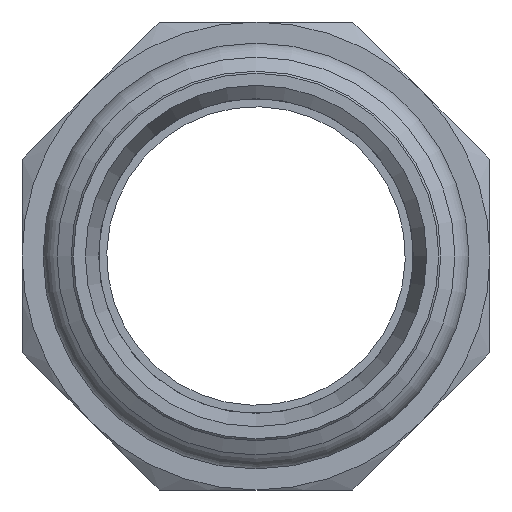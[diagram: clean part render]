
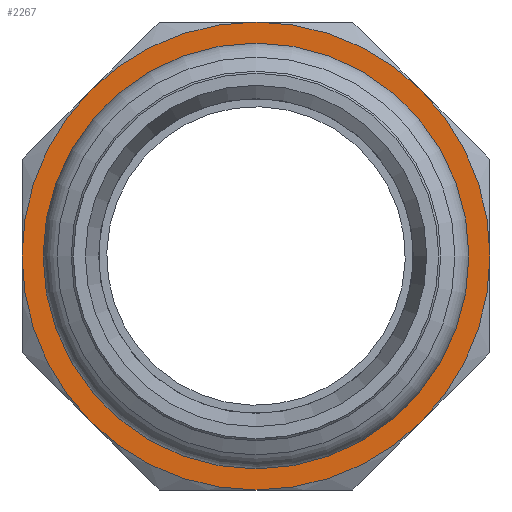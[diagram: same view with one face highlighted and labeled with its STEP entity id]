
A CAD part, left-side view. The second image highlights one B-rep face of the part: STEP entity #2267.
In plain terms, the highlighted planar face has unit normal (-1, 0, 0) as drawn and (0, 0, -1) by its records, which use the part's own axes.
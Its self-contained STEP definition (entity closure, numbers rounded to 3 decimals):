
#1595=CARTESIAN_POINT('',(20.506,20.506,-23.));
#1596=VERTEX_POINT('',#1595);
#1610=CARTESIAN_POINT('',(29.,0.0,-23.));
#1611=VERTEX_POINT('',#1610);
#1625=CARTESIAN_POINT('',(0.0,0.0,-23.));
#1626=DIRECTION('',(0.0,0.0,-1.0));
#1627=DIRECTION('',(0.0,-1.0,0.0));
#1628=AXIS2_PLACEMENT_3D('',#1625,#1626,#1627);
#1629=CIRCLE('',#1628,29.);
#1630=EDGE_CURVE('',#1596,#1611,#1629,.T.);
#1642=CARTESIAN_POINT('',(0.,29.,-23.));
#1643=VERTEX_POINT('',#1642);
#1670=CARTESIAN_POINT('',(0.0,0.0,-23.));
#1671=DIRECTION('',(0.0,0.0,-1.0));
#1672=DIRECTION('',(0.0,-1.0,0.0));
#1673=AXIS2_PLACEMENT_3D('',#1670,#1671,#1672);
#1674=CIRCLE('',#1673,29.);
#1675=EDGE_CURVE('',#1643,#1596,#1674,.T.);
#1687=CARTESIAN_POINT('',(-20.506,20.506,-23.));
#1688=VERTEX_POINT('',#1687);
#1715=CARTESIAN_POINT('',(0.0,0.0,-23.));
#1716=DIRECTION('',(0.0,0.0,-1.0));
#1717=DIRECTION('',(0.0,-1.0,0.0));
#1718=AXIS2_PLACEMENT_3D('',#1715,#1716,#1717);
#1719=CIRCLE('',#1718,29.);
#1720=EDGE_CURVE('',#1688,#1643,#1719,.T.);
#1745=CARTESIAN_POINT('',(-29.,0.0,-23.));
#1746=VERTEX_POINT('',#1745);
#1747=CARTESIAN_POINT('',(0.0,0.0,-23.));
#1748=DIRECTION('',(0.0,0.0,-1.0));
#1749=DIRECTION('',(0.0,-1.0,0.0));
#1750=AXIS2_PLACEMENT_3D('',#1747,#1748,#1749);
#1751=CIRCLE('',#1750,29.);
#1752=EDGE_CURVE('',#1746,#1688,#1751,.T.);
#1790=CARTESIAN_POINT('',(-20.506,-20.506,-23.));
#1791=VERTEX_POINT('',#1790);
#1792=CARTESIAN_POINT('',(0.0,0.0,-23.));
#1793=DIRECTION('',(0.0,0.0,-1.0));
#1794=DIRECTION('',(0.0,-1.0,0.0));
#1795=AXIS2_PLACEMENT_3D('',#1792,#1793,#1794);
#1796=CIRCLE('',#1795,29.);
#1797=EDGE_CURVE('',#1791,#1746,#1796,.T.);
#1835=CARTESIAN_POINT('',(0.0,-29.,-23.));
#1836=VERTEX_POINT('',#1835);
#1837=CARTESIAN_POINT('',(0.0,0.0,-23.));
#1838=DIRECTION('',(0.0,0.0,-1.0));
#1839=DIRECTION('',(0.0,-1.0,0.0));
#1840=AXIS2_PLACEMENT_3D('',#1837,#1838,#1839);
#1841=CIRCLE('',#1840,29.);
#1842=EDGE_CURVE('',#1836,#1791,#1841,.T.);
#1880=CARTESIAN_POINT('',(20.506,-20.506,-23.));
#1881=VERTEX_POINT('',#1880);
#1882=CARTESIAN_POINT('',(0.0,0.0,-23.));
#1883=DIRECTION('',(0.0,0.0,-1.0));
#1884=DIRECTION('',(0.0,-1.0,0.0));
#1885=AXIS2_PLACEMENT_3D('',#1882,#1883,#1884);
#1886=CIRCLE('',#1885,29.);
#1887=EDGE_CURVE('',#1881,#1836,#1886,.T.);
#1925=CARTESIAN_POINT('',(0.0,0.0,-23.));
#1926=DIRECTION('',(0.0,0.0,-1.0));
#1927=DIRECTION('',(0.0,-1.0,0.0));
#1928=AXIS2_PLACEMENT_3D('',#1925,#1926,#1927);
#1929=CIRCLE('',#1928,29.);
#1930=EDGE_CURVE('',#1611,#1881,#1929,.T.);
#2185=CARTESIAN_POINT('',(-23.,0.,-23.));
#2186=VERTEX_POINT('',#2185);
#2187=CARTESIAN_POINT('',(0.0,0.0,-23.));
#2188=DIRECTION('',(0.0,0.0,1.0));
#2189=DIRECTION('',(1.0,0.0,0.0));
#2190=AXIS2_PLACEMENT_3D('',#2187,#2188,#2189);
#2191=CIRCLE('',#2190,23.);
#2192=EDGE_CURVE('',#2186,#2186,#2191,.T.);
#2249=CARTESIAN_POINT('',(0.,0.,-23.));
#2250=DIRECTION('',(0.0,0.0,1.0));
#2251=DIRECTION('',(1.0,0.0,0.0));
#2252=AXIS2_PLACEMENT_3D('',#2249,#2250,#2251);
#2253=PLANE('',#2252);
#2254=ORIENTED_EDGE('',*,*,#1930,.T.);
#2255=ORIENTED_EDGE('',*,*,#1887,.T.);
#2256=ORIENTED_EDGE('',*,*,#1842,.T.);
#2257=ORIENTED_EDGE('',*,*,#1797,.T.);
#2258=ORIENTED_EDGE('',*,*,#1752,.T.);
#2259=ORIENTED_EDGE('',*,*,#1720,.T.);
#2260=ORIENTED_EDGE('',*,*,#1675,.T.);
#2261=ORIENTED_EDGE('',*,*,#1630,.T.);
#2262=EDGE_LOOP('',(#2254,#2255,#2256,#2257,#2258,#2259,#2260,#2261));
#2263=FACE_OUTER_BOUND('',#2262,.T.);
#2264=ORIENTED_EDGE('',*,*,#2192,.T.);
#2265=EDGE_LOOP('',(#2264));
#2266=FACE_BOUND('',#2265,.T.);
#2267=ADVANCED_FACE('',(#2263,#2266),#2253,.F.);
